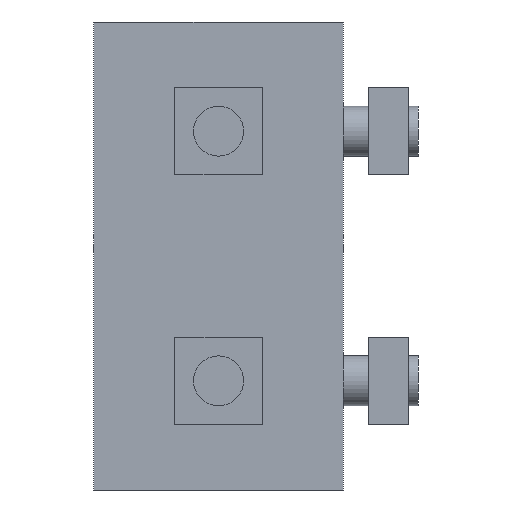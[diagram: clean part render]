
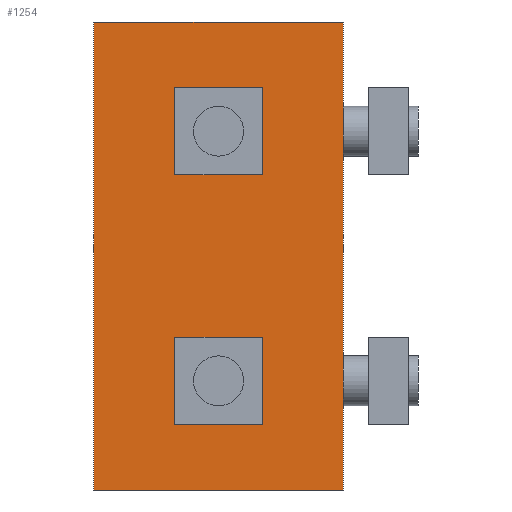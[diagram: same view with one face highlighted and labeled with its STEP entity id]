
A CAD part, left-side view. The second image highlights one B-rep face of the part: STEP entity #1254.
In plain terms, the highlighted planar face has unit normal (-1, 0, 0).
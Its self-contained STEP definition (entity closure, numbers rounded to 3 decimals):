
#508=CARTESIAN_POINT('',(0.0,15.5,-20.));
#509=VERTEX_POINT('',#508);
#510=CARTESIAN_POINT('',(0.0,20.,-20.));
#511=DIRECTION('',(1.0,0.0,0.0));
#512=DIRECTION('',(0.0,1.0,0.0));
#513=AXIS2_PLACEMENT_3D('',#510,#511,#512);
#514=CIRCLE('',#513,4.5);
#515=EDGE_CURVE('',#509,#509,#514,.T.);
#1121=CARTESIAN_POINT('',(0.0,15.5,20.));
#1122=VERTEX_POINT('',#1121);
#1123=CARTESIAN_POINT('',(0.0,20.,20.));
#1124=DIRECTION('',(1.0,0.0,0.0));
#1125=DIRECTION('',(0.0,1.0,0.0));
#1126=AXIS2_PLACEMENT_3D('',#1123,#1124,#1125);
#1127=CIRCLE('',#1126,4.5);
#1128=EDGE_CURVE('',#1122,#1122,#1127,.T.);
#1176=CARTESIAN_POINT('',(0.0,0.0,-37.5));
#1177=VERTEX_POINT('',#1176);
#1184=CARTESIAN_POINT('',(0.0,40.,-37.5));
#1185=VERTEX_POINT('',#1184);
#1186=CARTESIAN_POINT('',(0.0,40.,-37.5));
#1187=DIRECTION('',(0.0,-1.0,0.0));
#1188=VECTOR('',#1187,40.);
#1189=LINE('',#1186,#1188);
#1190=EDGE_CURVE('',#1185,#1177,#1189,.T.);
#1218=CARTESIAN_POINT('',(0.0,0.0,0.0));
#1219=DIRECTION('',(-1.0,0.0,0.0));
#1220=DIRECTION('',(0.0,0.0,1.0));
#1221=AXIS2_PLACEMENT_3D('',#1218,#1219,#1220);
#1222=PLANE('',#1221);
#1223=CARTESIAN_POINT('',(0.0,0.0,37.5));
#1224=VERTEX_POINT('',#1223);
#1225=CARTESIAN_POINT('',(0.0,40.,37.5));
#1226=VERTEX_POINT('',#1225);
#1227=CARTESIAN_POINT('',(0.0,0.0,37.5));
#1228=DIRECTION('',(0.0,1.0,0.0));
#1229=VECTOR('',#1228,40.);
#1230=LINE('',#1227,#1229);
#1231=EDGE_CURVE('',#1224,#1226,#1230,.T.);
#1232=ORIENTED_EDGE('',*,*,#1231,.T.);
#1233=CARTESIAN_POINT('',(0.0,40.,37.5));
#1234=DIRECTION('',(0.0,0.0,-1.0));
#1235=VECTOR('',#1234,75.);
#1236=LINE('',#1233,#1235);
#1237=EDGE_CURVE('',#1226,#1185,#1236,.T.);
#1238=ORIENTED_EDGE('',*,*,#1237,.T.);
#1239=ORIENTED_EDGE('',*,*,#1190,.T.);
#1240=CARTESIAN_POINT('',(0.0,0.0,37.5));
#1241=DIRECTION('',(0.0,0.0,-1.0));
#1242=VECTOR('',#1241,75.);
#1243=LINE('',#1240,#1242);
#1244=EDGE_CURVE('',#1224,#1177,#1243,.T.);
#1245=ORIENTED_EDGE('',*,*,#1244,.F.);
#1246=EDGE_LOOP('',(#1232,#1238,#1239,#1245));
#1247=FACE_OUTER_BOUND('',#1246,.T.);
#1248=ORIENTED_EDGE('',*,*,#515,.T.);
#1249=EDGE_LOOP('',(#1248));
#1250=FACE_BOUND('',#1249,.T.);
#1251=ORIENTED_EDGE('',*,*,#1128,.T.);
#1252=EDGE_LOOP('',(#1251));
#1253=FACE_BOUND('',#1252,.T.);
#1254=ADVANCED_FACE('',(#1247,#1250,#1253),#1222,.T.);
